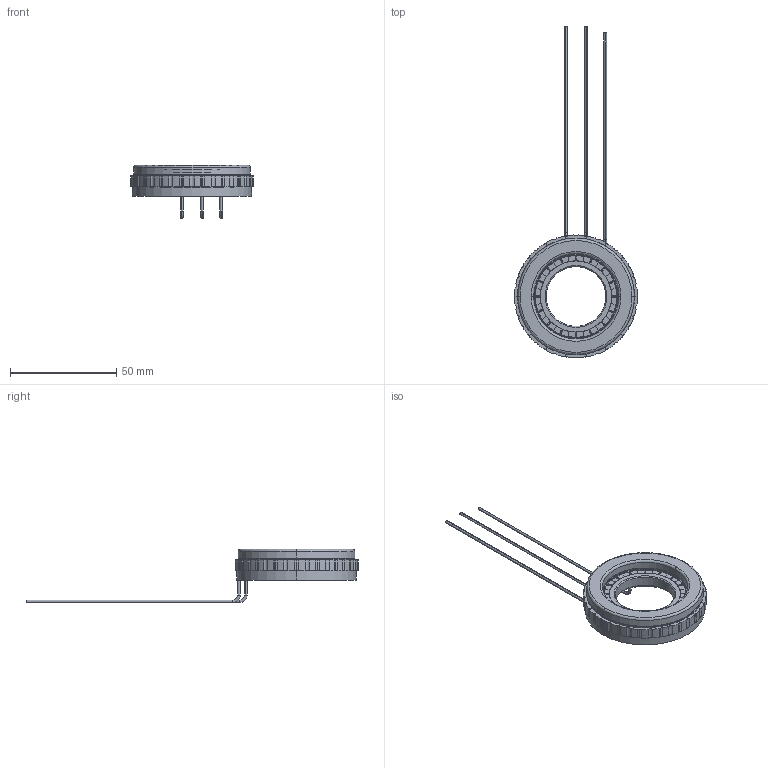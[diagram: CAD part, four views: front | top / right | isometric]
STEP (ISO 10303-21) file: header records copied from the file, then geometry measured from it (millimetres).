
FILE_DESCRIPTION (( 'STEP AP203' ), '1' );
FILE_NAME ('307080136 无框力矩电机（FMC05705-0007-3028N-8DS00）-V1.6.STEP', '2024-10-10T01:45:04', ( '' ), ( '' ), 'SwSTEP 2.0', 'SolidWorks 2023', '' );
FILE_SCHEMA (( 'CONFIG_CONTROL_DESIGN' ));
Length unit declared in the file: millimetre
Products named in the file (30): 10108010215 定子铁芯（57.8L5-18Z(B35A300)含骨架）); 307080136 无框力矩电机（FMC05705-0007-3028N-8DS00）-V1.6; 复件 10212020201 电源线（AWM1332-21AWG 蓝）^207011730 定子总成（57L5-1X0.38-51匝-1-16p星形(307080136)）-V1.0; 207041639 转子（FMC05705-0007-3028N-8DS00）-V1.4; 10108060385 磁钢（57L.5-16P-N40SH（N））; 10110020025 塑料端杯（SMR57）-V1.1; 复件 10403030004 芳纶纤维（200D）^207041639 转子（FMC05705-0007-3028N-8DS00）-V1.4; 复件 10212020202 电源线（AWM1332-21AWG 棕）^207011730 定子总成（57L5-1X0.38-51匝-1-16p星形(307080136)）-V1.0; 10108040147 转子铁芯（57L5.5-16P（40Cr电镀））-V1.1; 10108060386 磁钢（57L5.5-16P-N40SH（S））; 复件 10212010001 漆包线（QZY-2180  0.38 GB6109.5-88）^207011730 定子总成（57L5-1X0.38-51匝-1-16p星形(307080136)）-V1.0; 复件 10212020203 电源线（AWM1332-21AWG 紫）^207011730 定子总成（57L5-1X0.38-51匝-1-16p星形(307080136)）-V1.0; 207011730 定子总成（57L5-1X0.38-51匝-1-16p星形(307080136)）-V1.0
Assembly tree (43 placements, depth 3):
  307080136 无框力矩电机（FMC05705-0007-3028N-8DS00）-V1.6
    207041639 转子（FMC05705-0007-3028N-8DS00）-V1.4
      10108040147 转子铁芯（57L5.5-16P（40Cr电镀））-V1.1
      10108060385 磁钢（57L.5-16P-N40SH（N））  x8
      10108060386 磁钢（57L5.5-16P-N40SH（S））  x8
      复件 10403030004 芳纶纤维（200D）^207041639 转子（FMC05705-0007-3028N-8DS00）-V1.4
    207011730 定子总成（57L5-1X0.38-51匝-1-16p星形(307080136)）-V1.0
      10108010215 定子铁芯（57.8L5-18Z(B35A300)含骨架）)
      10108010215 定子铁芯（57.8L5-18Z(B35A300)含骨架）)
      10108010215 定子铁芯（57.8L5-18Z(B35A300)含骨架）)
      10108010215 定子铁芯（57.8L5-18Z(B35A300)含骨架）)
      10108010215 定子铁芯（57.8L5-18Z(B35A300)含骨架）)
      10108010215 定子铁芯（57.8L5-18Z(B35A300)含骨架）)
      10108010215 定子铁芯（57.8L5-18Z(B35A300)含骨架）)
      10108010215 定子铁芯（57.8L5-18Z(B35A300)含骨架）)
      10108010215 定子铁芯（57.8L5-18Z(B35A300)含骨架）)
      10108010215 定子铁芯（57.8L5-18Z(B35A300)含骨架）)
      10108010215 定子铁芯（57.8L5-18Z(B35A300)含骨架）)
      10108010215 定子铁芯（57.8L5-18Z(B35A300)含骨架）)
      10108010215 定子铁芯（57.8L5-18Z(B35A300)含骨架）)
      10108010215 定子铁芯（57.8L5-18Z(B35A300)含骨架）)
      10108010215 定子铁芯（57.8L5-18Z(B35A300)含骨架）)
      10108010215 定子铁芯（57.8L5-18Z(B35A300)含骨架）)
      10108010215 定子铁芯（57.8L5-18Z(B35A300)含骨架）)
      10108010215 定子铁芯（57.8L5-18Z(B35A300)含骨架）)
      复件 10212020201 电源线（AWM1332-21AWG 蓝）^207011730 定子总成（57L5-1X0.38-51匝-1-16p星形(307080136)）-V1.0
      复件 10212020202 电源线（AWM1332-21AWG 棕）^207011730 定子总成（57L5-1X0.38-51匝-1-16p星形(307080136)）-V1.0
      复件 10212020203 电源线（AWM1332-21AWG 紫）^207011730 定子总成（57L5-1X0.38-51匝-1-16p星形(307080136)）-V1.0
      复件 10212010001 漆包线（QZY-2180  0.38 GB6109.5-88）^207011730 定子总成（57L5-1X0.38-51匝-1-16p星形(307080136)）-V1.0
      10110020025 塑料端杯（SMR57）-V1.1
Bounding box: 57.78 x 155.96 x 25.1 mm (x, y, z)
Volume: 16076.3 mm3; surface area: 20338.4 mm2
Topology: 41 solids, 41 shells, 1474 faces, 4048 edges, 2690 vertices
Faces by surface type: plane 660, cylinder 414, bspline 372, torus 18, cone 10
Entity records: 44880 total; most frequent: CARTESIAN_POINT 19608, DIRECTION 4674, ORIENTED_EDGE 4568, EDGE_CURVE 2284, AXIS2_PLACEMENT_3D 1694, VERTEX_POINT 1514, VECTOR 1286, LINE 1286
